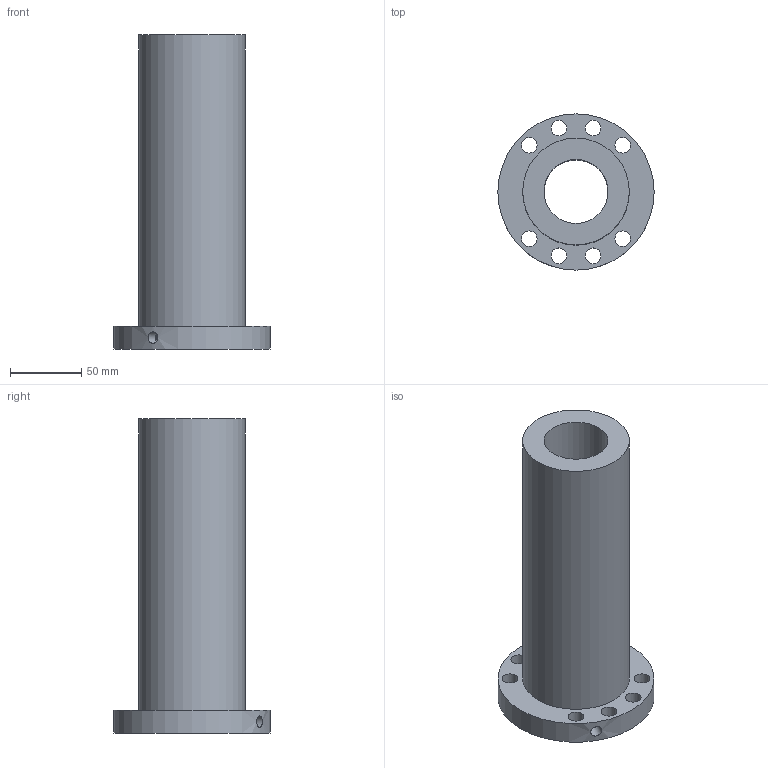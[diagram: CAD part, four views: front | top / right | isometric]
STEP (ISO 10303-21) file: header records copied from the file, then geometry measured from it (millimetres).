
FILE_DESCRIPTION(/* description */ (''),/* implementation_level */ '2;1');
FILE_NAME(/* name */ '45-20K4_635',/* time_stamp */ '2007-10-15T12:53:56+08:00',/* author */ (''),/* organization */ (''),/* preprocessor_version */ 'ST-DEVELOPER v11',/* originating_system */ 'UGS - NX 5.0',/* authorisation */ '');
FILE_SCHEMA (('CONFIG_CONTROL_DESIGN'));
Length unit declared in the file: millimetre
Products named in the file (1): 45-20K4_635
Bounding box: 110 x 110 x 221 mm (x, y, z)
Volume: 692927.9 mm3; surface area: 104421.8 mm2
Topology: 1 solids, 1 shells, 17 faces, 40 edges, 27 vertices
Faces by surface type: cylinder 13, plane 4
Full cylindrical faces by diameter (mm): 6 x1, 8 x1, 11 x8, 45 x1, 75 x1, 110 x1
Entity records: 668 total; most frequent: CARTESIAN_POINT 184, DIRECTION 84, FACE_BOUND 52, EDGE_LOOP 52, ORIENTED_EDGE 52, AXIS2_PLACEMENT_3D 42, VERTEX_POINT 26, EDGE_CURVE 26
